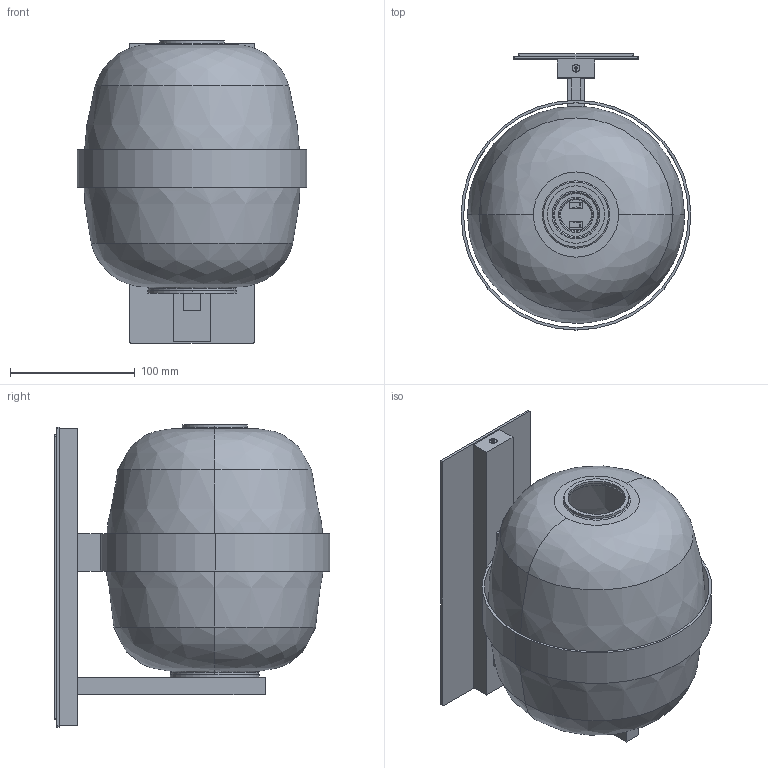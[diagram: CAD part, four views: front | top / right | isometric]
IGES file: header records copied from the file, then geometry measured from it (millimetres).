
Start section: SolidWorks IGES file using analytic representation for surfaces
Global section: file name: C:\Users\maria.romani\Desktop\WALLY\3D\Wally_UL_3D.IGS; native system: SolidWorks 2013; preprocessor: SolidWorks 2013; author: maria.romani; date: 150702.164154; units: millimetre
Bounding box: 184 x 221 x 242 mm (x, y, z)
Volume: 535695.9 mm3; surface area: 453647.4 mm2
Topology: 18 solids, 18 shells, 627 faces, 3128 edges, 4086 vertices
Faces by surface type: revolution 318, plane 309
